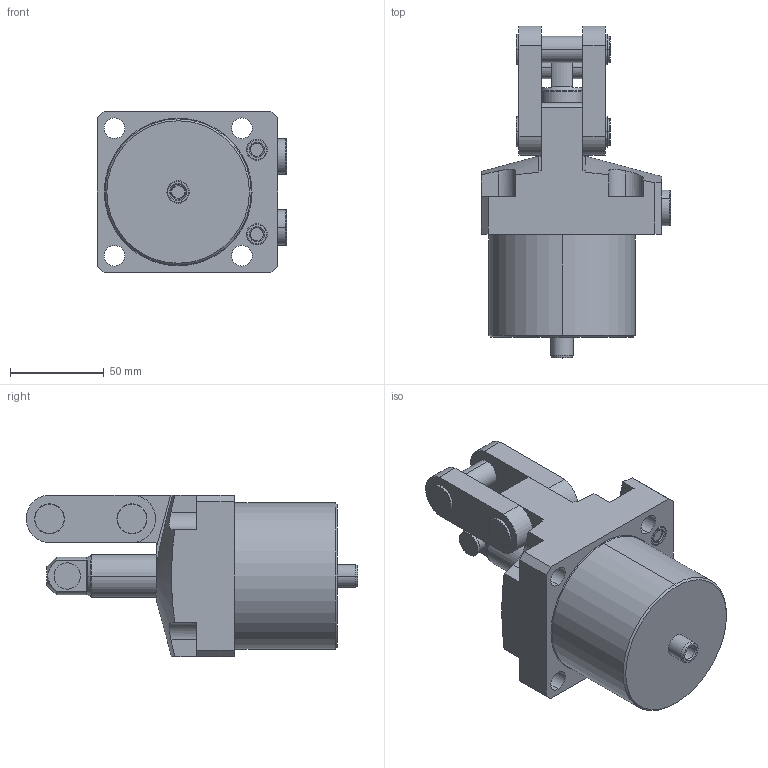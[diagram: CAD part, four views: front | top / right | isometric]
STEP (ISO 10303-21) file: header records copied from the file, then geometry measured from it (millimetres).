
FILE_DESCRIPTION(/* description */ (''),/* implementation_level */ '2;1');
FILE_NAME(/* name */ 'TPC16-LD.stp',/* time_stamp */ '2025-01-05T10:11:26+08:00',/* author */ (''),/* organization */ (''),/* preprocessor_version */ 'ST-DEVELOPER v16.7',/* originating_system */ 'SIEMENS PLM Software NX 12.0',/* authorisation */ '');
FILE_SCHEMA (('AUTOMOTIVE_DESIGN { 1 0 10303 214 3 1 1 1 }'));
Length unit declared in the file: millimetre
Products named in the file (5): TPC16-LD-04; TPC16-LD-03; TPC16-LD-02; TPC16-LD-01; TPC16-LD_stp
Assembly tree (5 placements, depth 2):
  TPC16-LD_stp
    TPC16-LD-01
    TPC16-LD-02
    TPC16-LD-03
    TPC16-LD-04  x2
Bounding box: 100.8 x 177 x 86 mm (x, y, z)
Volume: 606741.3 mm3; surface area: 79064.1 mm2
Topology: 5 solids, 7 shells, 295 faces, 693 edges, 440 vertices
Faces by surface type: cylinder 124, plane 114, torus 34, cone 23
Entity records: 8217 total; most frequent: CARTESIAN_POINT 1528, DIRECTION 1483, ORIENTED_EDGE 1294, EDGE_CURVE 647, AXIS2_PLACEMENT_3D 593, VERTEX_POINT 412, EDGE_LOOP 321, CIRCLE 314
